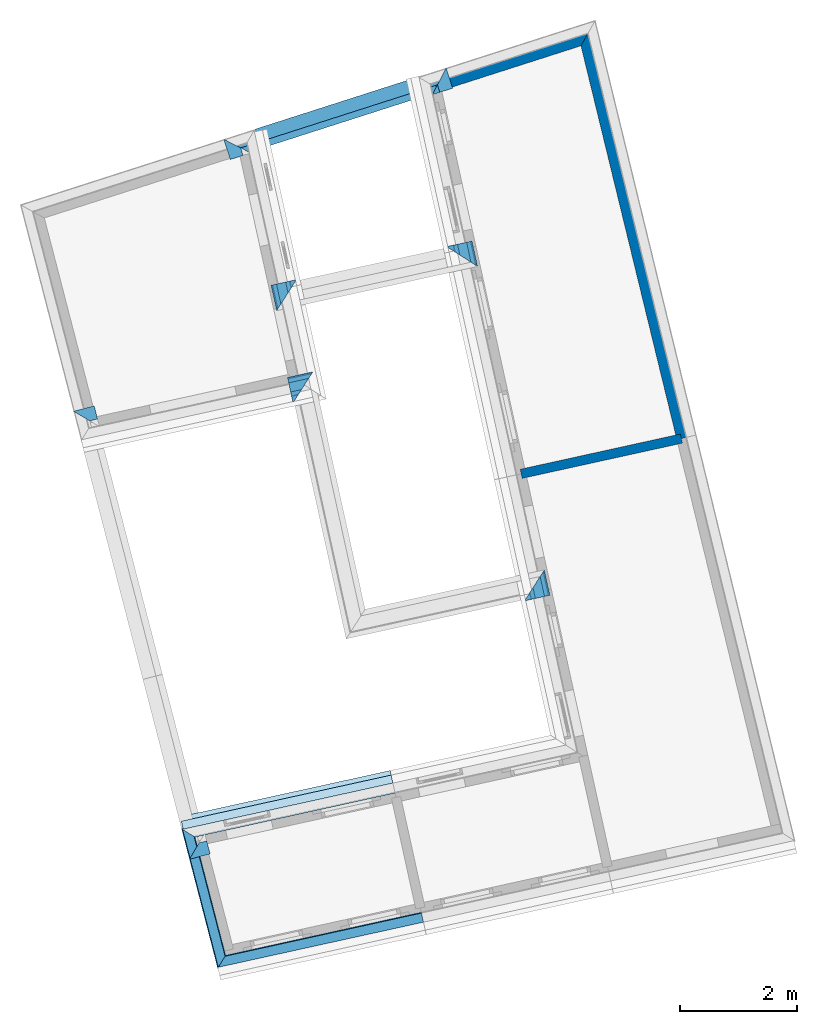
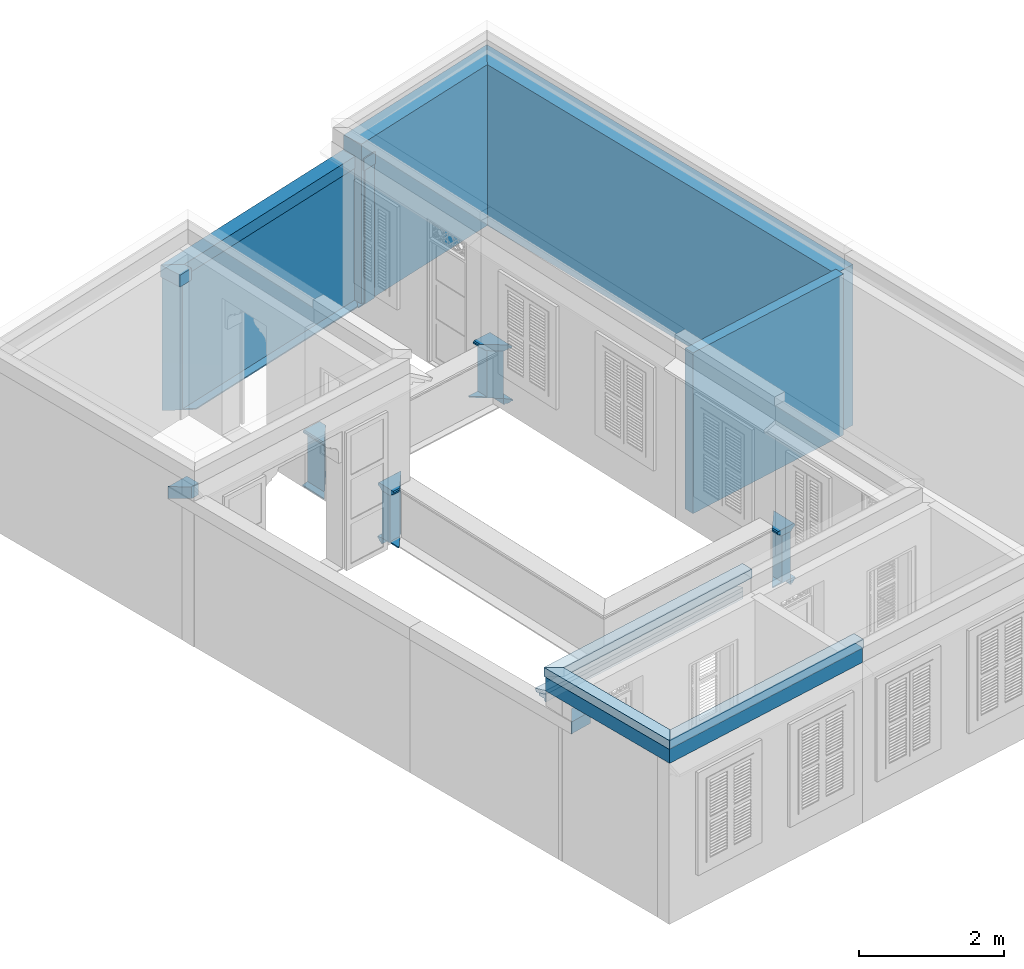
# One storey, part 14 of 17: 22 walls, 7 roofs.
"""IFC4 building model written with IfcOpenShell, lengths in metres."""

from ifc_helpers import new_model, si_unit, frame, origin_with_axes, place, context, subcontext, project, spatial, polyline, outline, extrude, clip, halfspace, material, layer, layer_set, layer_usage, material_profile, profile_set, profile_usage, type_object, element, save


model = new_model("IFC4")

# Units and contexts
model_context = context("Model", 3, world=origin_with_axes())
body_context = subcontext(model_context, "Body", "Model", "MODEL_VIEW")
ifc_project = project(units=[si_unit("PLANEANGLEUNIT", "RADIAN"), si_unit("MASSUNIT", "GRAM", prefix="KILO"), si_unit("FORCEUNIT", "NEWTON", prefix="KILO"), si_unit("LENGTHUNIT", "METRE"), si_unit("AREAUNIT", "SQUARE_METRE"), si_unit("VOLUMEUNIT", "CUBIC_METRE")], contexts=[model_context, model_context])

# Site, building, storey
site_placement = place(None, origin_with_axes())
site = spatial("IfcSite", under=ifc_project, at=site_placement, Name="Site plot-2", CompositionType="ELEMENT")
building_placement = place(None, origin_with_axes())
building = spatial("IfcBuilding", under=site, at=building_placement, Name="Building plot-2", CompositionType="ELEMENT")
storey_placement = place(None, frame((0.0, 0.0, 2.85), z_axis=(0.0, 0.0, 1.0), x_axis=(1.0, 0.0, 0.0)))
storey = spatial("IfcBuildingStorey", under=building, at=storey_placement, Name="plot-2 1", CompositionType="ELEMENT", Elevation=2.85)

# Walls
ifc_material_1 = material(Name="Masonry")
ifc_layer_1 = layer(ifc_material_1, 0.33, ventilated=False)
ifc_layer_set_1 = layer_set([ifc_layer_1], Name="party_0.08_0.25")
ifc_layer_usage_1 = layer_usage(ifc_layer_set_1, "AXIS2", "POSITIVE", -0.25)
wall_type_1 = type_object("IfcWallType", Name="party_0.08_0.25", PredefinedType="SOLIDWALL", material=ifc_layer_set_1)
wall_1_placement = place(storey_placement, frame((19.0788088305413, 10.0467628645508, 0.0), z_axis=(0.0, 0.0, 1.0), x_axis=(-0.236608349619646, 0.971605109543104, 0.0)))
element("IfcWall", 1, at=wall_1_placement, inside=storey, type_object=wall_type_1, material=ifc_layer_usage_1, Name="party", context=body_context, shape_type="SweptSolid", body=[
    extrude(outline(polyline([(-2.26027801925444e-16, 0.0800000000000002), (-2.20513796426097e-15, -0.25), (7.28721070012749, -0.250000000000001), (6.93273798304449, 0.0800000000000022), (-2.26027801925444e-16, 0.0800000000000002)])), origin_with_axes(), (0.0, 0.0, 1.0), 2.7),
])
wall_2_placement = place(storey_placement, frame((17.4181327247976, 16.8661392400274, 0.0), z_axis=(0.0, 0.0, 1.0), x_axis=(-0.952226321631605, -0.305393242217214, 0.0)))
element("IfcWall", 2, at=wall_2_placement, inside=storey, type_object=wall_type_1, material=ifc_layer_usage_1, Name="party", context=body_context, shape_type="SweptSolid", body=[
    extrude(outline(polyline([(0.08593277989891, 0.0799999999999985), (-0.268539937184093, -0.250000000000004), (2.66180211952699, -0.249999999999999), (2.661802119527, 0.0799999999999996), (0.08593277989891, 0.0799999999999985)])), origin_with_axes(), (0.0, 0.0, 1.0), 2.7),
])
ifc_material_2 = material(Name="Masonry")
ifc_layer_2 = layer(ifc_material_2, 0.16, ventilated=False)
ifc_layer_set_2 = layer_set([ifc_layer_2], Name="interior_0.08_0.08")
ifc_layer_usage_2 = layer_usage(ifc_layer_set_2, "AXIS2", "POSITIVE", -0.08)
wall_type_2 = type_object("IfcWallType", Name="interior_0.08_0.08", PredefinedType="SOLIDWALL", material=ifc_layer_set_2)
wall_3_placement = place(storey_placement, frame((19.0788088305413, 10.0467628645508, 0.0), z_axis=(0.0, 0.0, 1.0), x_axis=(-0.976656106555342, -0.214808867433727, 0.0)))
element("IfcWall", 3, at=wall_3_placement, inside=storey, type_object=wall_type_2, material=ifc_layer_usage_2, Name="interior", context=body_context, shape_type="SweptSolid", body=[
    extrude(outline(polyline([(4.11629879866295e-16, 0.0800000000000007), (-3.85899917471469e-16, -0.0800000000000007), (2.80713401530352, -0.0800000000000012), (2.80713401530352, 0.08), (4.11629879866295e-16, 0.0800000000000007)])), origin_with_axes(), (0.0, 0.0, 1.0), 2.7),
])
ifc_material_profile_1 = material_profile(None, outline(polyline([(0.25, 0.0), (0.25, 2.245), (0.05, 2.245), (0.05, 0.02), (-0.08, 0.02), (-0.08, 0.0), (0.25, 0.0)])))
ifc_profile_set_1 = profile_set([ifc_material_profile_1])
ifc_profile_usage_1 = profile_usage(ifc_profile_set_1)
wall_type_3 = type_object("IfcWallType", Name="parapet party_0", PredefinedType="PARAPET", material=ifc_profile_set_1)
wall_4_placement = place(storey_placement, frame((14.578101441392, 17.005469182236, 0.0), z_axis=(0.305393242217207, -0.952226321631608, 0.0), x_axis=(0.952226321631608, 0.305393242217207, 0.0)))
element("IfcWall", 4, at=wall_4_placement, inside=storey, type_object=wall_type_3, material=ifc_profile_usage_1, Name="parapet party_0", context=body_context, shape_type="Clipping", body=[
    clip(clip(extrude(outline(polyline([(0.25, 0.0), (0.25, 2.245), (0.05, 2.245), (0.05, 0.02), (-0.08, 0.02), (-0.08, 0.0), (0.25, 0.0)])), origin_with_axes(), (0.0, 0.0, 1.0), 2.1), halfspace(frame((0.0, 0.0, 1.1), z_axis=(6.04901474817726e-16, 0.0, -1.0), x_axis=(0.0, 1.0, 0.0)), True)), halfspace(frame((0.0, 0.0, 1.0), z_axis=(-0.707106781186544, 0.0, -0.707106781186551), x_axis=(0.0, 1.0, 0.0)), False)),
])
ifc_profile_usage_2 = profile_usage(ifc_profile_set_1)
wall_5_placement = place(storey_placement, frame((10.6325967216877, 14.6899162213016, 0.0), z_axis=(0.952226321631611, 0.305393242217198, 0.0), x_axis=(-0.305393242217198, 0.952226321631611, 0.0)))
element("IfcWall", 5, at=wall_5_placement, inside=storey, type_object=wall_type_3, material=ifc_profile_usage_2, Name="parapet party_0", context=body_context, shape_type="Clipping", body=[
    clip(clip(extrude(outline(polyline([(0.25, 0.0), (0.25, 2.245), (0.05, 2.245), (0.05, 0.02), (-0.08, 0.02), (-0.08, 0.0), (0.25, 0.0)])), origin_with_axes(), (0.0, 0.0, 1.0), 5.46416767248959), halfspace(frame((0.0, 0.0, 4.46416767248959), z_axis=(0.707106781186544, 0.0, -0.707106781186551), x_axis=(0.0, 1.0, 0.0)), True)), halfspace(frame((0.0, 0.0, 1.0), z_axis=(-0.707106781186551, 0.0, -0.707106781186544), x_axis=(0.0, 1.0, 0.0)), False)),
])
ifc_material_profile_2 = material_profile(None, outline(polyline([(0.265, 2.245), (0.265, 2.445), (0.035, 2.445), (0.035, 2.245), (0.265, 2.245)])))
ifc_profile_set_2 = profile_set([ifc_material_profile_2])
ifc_profile_usage_3 = profile_usage(ifc_profile_set_2)
wall_type_4 = type_object("IfcWallType", Name="parapet party_1", PredefinedType="PARAPET", material=ifc_profile_set_2)
wall_6_placement = place(storey_placement, frame((14.578101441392, 17.005469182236, 0.0), z_axis=(0.305393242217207, -0.952226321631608, 0.0), x_axis=(0.952226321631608, 0.305393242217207, 0.0)))
element("IfcWall", 6, at=wall_6_placement, inside=storey, type_object=wall_type_4, material=ifc_profile_usage_3, Name="parapet party_1", context=body_context, shape_type="Clipping", body=[
    clip(clip(extrude(outline(polyline([(0.265, 2.245), (0.265, 2.445), (0.035, 2.445), (0.035, 2.245), (0.265, 2.245)])), origin_with_axes(), (0.0, 0.0, 1.0), 2.1), halfspace(frame((0.0, 0.0, 1.1), z_axis=(6.04901474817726e-16, 0.0, -1.0), x_axis=(0.0, 1.0, 0.0)), True)), halfspace(frame((0.0, 0.0, 1.0), z_axis=(-0.707106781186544, 0.0, -0.707106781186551), x_axis=(0.0, 1.0, 0.0)), False)),
])
ifc_profile_usage_4 = profile_usage(ifc_profile_set_2)
wall_7_placement = place(storey_placement, frame((10.6325967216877, 14.6899162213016, 0.0), z_axis=(0.952226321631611, 0.305393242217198, 0.0), x_axis=(-0.305393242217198, 0.952226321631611, 0.0)))
element("IfcWall", 7, at=wall_7_placement, inside=storey, type_object=wall_type_4, material=ifc_profile_usage_4, Name="parapet party_1", context=body_context, shape_type="Clipping", body=[
    clip(clip(extrude(outline(polyline([(0.265, 2.245), (0.265, 2.445), (0.035, 2.445), (0.035, 2.245), (0.265, 2.245)])), origin_with_axes(), (0.0, 0.0, 1.0), 5.46416767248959), halfspace(frame((0.0, 0.0, 4.46416767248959), z_axis=(0.707106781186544, 0.0, -0.707106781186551), x_axis=(0.0, 1.0, 0.0)), True)), halfspace(frame((0.0, 0.0, 1.0), z_axis=(-0.707106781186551, 0.0, -0.707106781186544), x_axis=(0.0, 1.0, 0.0)), False)),
])
ifc_profile_usage_5 = profile_usage(ifc_profile_set_2)
wall_8_placement = place(storey_placement, frame((11.9207556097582, 13.947860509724, 0.0), z_axis=(-0.305393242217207, 0.952226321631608, 0.0), x_axis=(-0.952226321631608, -0.305393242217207, 0.0)))
element("IfcWall", 8, at=wall_8_placement, inside=storey, type_object=wall_type_4, material=ifc_profile_usage_5, Name="parapet party_1", context=body_context, shape_type="Clipping", body=[
    clip(clip(extrude(outline(polyline([(0.265, 2.245), (0.265, 2.445), (0.035, 2.445), (0.035, 2.245), (0.265, 2.245)])), origin_with_axes(), (0.0, 0.0, 1.0), 2.1), halfspace(frame((0.0, 0.0, 1.1), z_axis=(0.70710678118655, 0.0, -0.707106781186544), x_axis=(0.0, 1.0, 0.0)), True)), halfspace(frame((0.0, 0.0, 1.0), z_axis=(6.04901474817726e-16, 0.0, -1.0), x_axis=(0.0, 1.0, 0.0)), False)),
])
ifc_material_profile_3 = material_profile(None, outline(polyline([(0.265, 2.245), (0.265, 2.445), (0.035, 2.445), (0.035, 2.245), (0.265, 2.245)])))
ifc_profile_set_3 = profile_set([ifc_material_profile_3])
ifc_profile_usage_6 = profile_usage(ifc_profile_set_3)
wall_type_5 = type_object("IfcWallType", Name="parapet party_1", PredefinedType="PARAPET", material=ifc_profile_set_3)
wall_9_placement = place(storey_placement, frame((8.03640757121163, 10.0729819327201, 0.0), z_axis=(0.968110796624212, 0.250522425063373, 0.0), x_axis=(-0.250522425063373, 0.968110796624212, 0.0)))
element("IfcWall", 9, at=wall_9_placement, inside=storey, type_object=wall_type_5, material=ifc_profile_usage_6, Name="parapet party_1", context=body_context, shape_type="Clipping", body=[
    clip(clip(extrude(outline(polyline([(0.265, 2.245), (0.265, 2.445), (0.035, 2.445), (0.035, 2.245), (0.265, 2.245)])), origin_with_axes(), (0.0, 0.0, 1.0), 2.1), halfspace(frame((0.0, 0.0, 1.1), z_axis=(-5.0532154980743e-16, 0.0, -1.0), x_axis=(0.0, 1.0, 0.0)), True)), halfspace(frame((0.0, 0.0, 1.0), z_axis=(-0.707106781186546, 0.0, -0.707106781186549), x_axis=(0.0, 1.0, 0.0)), False)),
])
ifc_profile_usage_7 = profile_usage(ifc_profile_set_3)
wall_10_placement = place(storey_placement, frame((11.9192241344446, 3.45083369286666, 0.0), z_axis=(-0.968110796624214, -0.250522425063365, 0.0), x_axis=(0.250522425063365, -0.968110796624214, 0.0)))
element("IfcWall", 10, at=wall_10_placement, inside=storey, type_object=wall_type_5, material=ifc_profile_usage_7, Name="parapet party_1", context=body_context, shape_type="Clipping", body=[
    clip(clip(extrude(outline(polyline([(0.265, 2.245), (0.265, 2.445), (0.035, 2.445), (0.035, 2.245), (0.265, 2.245)])), origin_with_axes(), (0.0, 0.0, 1.0), 2.1), halfspace(frame((0.0, 0.0, 1.1), z_axis=(0.707106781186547, 0.0, -0.707106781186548), x_axis=(0.0, 1.0, 0.0)), True)), halfspace(frame((0.0, 0.0, 1.0), z_axis=(3.82856869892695e-16, 0.0, -1.0), x_axis=(0.0, 1.0, 0.0)), False)),
])
ifc_material_profile_4 = material_profile(None, outline(polyline([(0.25, 0.0), (0.25, 0.795), (0.09, 0.795), (0.09, 0.02), (-0.08, 0.02), (-0.08, 0.0), (0.25, 0.0)])))
ifc_profile_set_4 = profile_set([ifc_material_profile_4])
ifc_profile_usage_8 = profile_usage(ifc_profile_set_4)
wall_type_6 = type_object("IfcWallType", Name="parapet internal_0", PredefinedType="PARAPET", material=ifc_profile_set_4)
wall_11_placement = place(storey_placement, frame((12.6339023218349, 11.6686791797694, 0.0), z_axis=(-0.214808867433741, 0.976656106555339, 0.0), x_axis=(-0.976656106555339, -0.214808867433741, 0.0)))
element("IfcWall", 11, at=wall_11_placement, inside=storey, type_object=wall_type_6, material=ifc_profile_usage_8, Name="parapet internal_0", context=body_context, shape_type="Clipping", body=[
    clip(clip(extrude(outline(polyline([(0.25, 0.0), (0.25, 0.795), (0.09, 0.795), (0.09, 0.02), (-0.08, 0.02), (-0.08, 0.0), (0.25, 0.0)])), origin_with_axes(), (0.0, 0.0, 1.0), 2.1), halfspace(frame((0.0, 0.0, 1.1), z_axis=(-5.0532154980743e-16, 0.0, -1.0), x_axis=(0.0, 1.0, 0.0)), True)), halfspace(frame((0.0, 0.0, 1.0), z_axis=(-0.707106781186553, 0.0, -0.707106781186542), x_axis=(0.0, 1.0, 0.0)), False)),
])
ifc_profile_usage_9 = profile_usage(ifc_profile_set_4)
wall_12_placement = place(storey_placement, frame((14.9456869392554, 14.327334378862, 0.0), z_axis=(0.214808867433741, -0.976656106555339, 0.0), x_axis=(0.976656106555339, 0.214808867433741, 0.0)))
element("IfcWall", 12, at=wall_12_placement, inside=storey, type_object=wall_type_6, material=ifc_profile_usage_9, Name="parapet internal_0", context=body_context, shape_type="Clipping", body=[
    clip(clip(extrude(outline(polyline([(0.25, 0.0), (0.25, 0.795), (0.09, 0.795), (0.09, 0.02), (-0.08, 0.02), (-0.08, 0.0), (0.25, 0.0)])), origin_with_axes(), (0.0, 0.0, 1.0), 2.1), halfspace(frame((0.0, 0.0, 1.1), z_axis=(0.707106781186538, 0.0, -0.707106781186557), x_axis=(0.0, 1.0, 0.0)), True)), halfspace(frame((0.0, 0.0, 1.0), z_axis=(-7.27366154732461e-16, 0.0, -1.0), x_axis=(0.0, 1.0, 0.0)), False)),
])
ifc_material_profile_5 = material_profile(None, outline(polyline([(0.265, 0.795), (0.268, 0.807), (0.274, 0.816), (0.283, 0.822), (0.295, 0.825), (0.295, 0.84), (0.305, 0.84), (0.317, 0.842), (0.326, 0.849), (0.333, 0.858), (0.335, 0.87), (0.333, 0.882), (0.326, 0.891), (0.317, 0.898), (0.305, 0.9), (0.035, 0.9), (0.023, 0.898), (0.014, 0.891), (0.007, 0.882), (0.005, 0.87), (0.007, 0.858), (0.014, 0.849), (0.023, 0.842), (0.035, 0.84), (0.045, 0.84), (0.045, 0.825), (0.057, 0.822), (0.066, 0.816), (0.072, 0.807), (0.075, 0.795), (0.265, 0.795)])))
ifc_profile_set_5 = profile_set([ifc_material_profile_5])
ifc_profile_usage_10 = profile_usage(ifc_profile_set_5)
wall_type_7 = type_object("IfcWallType", Name="parapet internal_1", PredefinedType="PARAPET", material=ifc_profile_set_5)
wall_13_placement = place(storey_placement, frame((12.6339023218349, 11.6686791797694, 0.0), z_axis=(-0.214808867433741, 0.976656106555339, 0.0), x_axis=(-0.976656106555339, -0.214808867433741, 0.0)))
element("IfcWall", 13, at=wall_13_placement, inside=storey, type_object=wall_type_7, material=ifc_profile_usage_10, Name="parapet internal_1", context=body_context, shape_type="Clipping", body=[
    clip(clip(extrude(outline(polyline([(0.265, 0.795), (0.268, 0.807), (0.274, 0.816), (0.283, 0.822), (0.295, 0.825), (0.295, 0.84), (0.305, 0.84), (0.317, 0.842), (0.326, 0.849), (0.333, 0.858), (0.335, 0.87), (0.333, 0.882), (0.326, 0.891), (0.317, 0.898), (0.305, 0.9), (0.035, 0.9), (0.023, 0.898), (0.014, 0.891), (0.007, 0.882), (0.005, 0.87), (0.007, 0.858), (0.014, 0.849), (0.023, 0.842), (0.035, 0.84), (0.045, 0.84), (0.045, 0.825), (0.057, 0.822), (0.066, 0.816), (0.072, 0.807), (0.075, 0.795), (0.265, 0.795)])), origin_with_axes(), (0.0, 0.0, 1.0), 2.1), halfspace(frame((0.0, 0.0, 1.1), z_axis=(-5.0532154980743e-16, 0.0, -1.0), x_axis=(0.0, 1.0, 0.0)), True)), halfspace(frame((0.0, 0.0, 1.0), z_axis=(-0.707106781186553, 0.0, -0.707106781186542), x_axis=(0.0, 1.0, 0.0)), False)),
])
ifc_profile_usage_11 = profile_usage(ifc_profile_set_5)
wall_14_placement = place(storey_placement, frame((14.9456869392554, 14.327334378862, 0.0), z_axis=(0.214808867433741, -0.976656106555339, 0.0), x_axis=(0.976656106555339, 0.214808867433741, 0.0)))
element("IfcWall", 14, at=wall_14_placement, inside=storey, type_object=wall_type_7, material=ifc_profile_usage_11, Name="parapet internal_1", context=body_context, shape_type="Clipping", body=[
    clip(clip(extrude(outline(polyline([(0.265, 0.795), (0.268, 0.807), (0.274, 0.816), (0.283, 0.822), (0.295, 0.825), (0.295, 0.84), (0.305, 0.84), (0.317, 0.842), (0.326, 0.849), (0.333, 0.858), (0.335, 0.87), (0.333, 0.882), (0.326, 0.891), (0.317, 0.898), (0.305, 0.9), (0.035, 0.9), (0.023, 0.898), (0.014, 0.891), (0.007, 0.882), (0.005, 0.87), (0.007, 0.858), (0.014, 0.849), (0.023, 0.842), (0.035, 0.84), (0.045, 0.84), (0.045, 0.825), (0.057, 0.822), (0.066, 0.816), (0.072, 0.807), (0.075, 0.795), (0.265, 0.795)])), origin_with_axes(), (0.0, 0.0, 1.0), 2.1), halfspace(frame((0.0, 0.0, 1.1), z_axis=(0.707106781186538, 0.0, -0.707106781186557), x_axis=(0.0, 1.0, 0.0)), True)), halfspace(frame((0.0, 0.0, 1.0), z_axis=(-7.27366154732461e-16, 0.0, -1.0), x_axis=(0.0, 1.0, 0.0)), False)),
])
ifc_material_profile_6 = material_profile(None, outline(polyline([(0.25, -0.1), (0.265, -0.1), (0.265, -0.085), (0.278, -0.084), (0.289, -0.081), (0.301, -0.074), (0.309, -0.065), (0.315, -0.055), (0.324, -0.044), (0.334, -0.038), (0.345, -0.035), (0.345, -0.015), (0.25, 0.0), (0.25, -0.1)])))
ifc_profile_set_6 = profile_set([ifc_material_profile_6])
ifc_profile_usage_12 = profile_usage(ifc_profile_set_6)
wall_type_8 = type_object("IfcWallType", Name="parapet internal_2", PredefinedType="PARAPET", material=ifc_profile_set_6)
wall_15_placement = place(storey_placement, frame((12.6339023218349, 11.6686791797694, 0.0), z_axis=(-0.214808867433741, 0.976656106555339, 0.0), x_axis=(-0.976656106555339, -0.214808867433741, 0.0)))
element("IfcWall", 15, at=wall_15_placement, inside=storey, type_object=wall_type_8, material=ifc_profile_usage_12, Name="parapet internal_2", context=body_context, shape_type="Clipping", body=[
    clip(clip(extrude(outline(polyline([(0.25, -0.1), (0.265, -0.1), (0.265, -0.085), (0.278, -0.084), (0.289, -0.081), (0.301, -0.074), (0.309, -0.065), (0.315, -0.055), (0.324, -0.044), (0.334, -0.038), (0.345, -0.035), (0.345, -0.015), (0.25, 0.0), (0.25, -0.1)])), origin_with_axes(), (0.0, 0.0, 1.0), 2.1), halfspace(frame((0.0, 0.0, 1.1), z_axis=(-5.0532154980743e-16, 0.0, -1.0), x_axis=(0.0, 1.0, 0.0)), True)), halfspace(frame((0.0, 0.0, 1.0), z_axis=(-0.707106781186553, 0.0, -0.707106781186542), x_axis=(0.0, 1.0, 0.0)), False)),
])
ifc_profile_usage_13 = profile_usage(ifc_profile_set_6)
wall_16_placement = place(storey_placement, frame((14.9456869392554, 14.327334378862, 0.0), z_axis=(0.214808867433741, -0.976656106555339, 0.0), x_axis=(0.976656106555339, 0.214808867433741, 0.0)))
element("IfcWall", 16, at=wall_16_placement, inside=storey, type_object=wall_type_8, material=ifc_profile_usage_13, Name="parapet internal_2", context=body_context, shape_type="Clipping", body=[
    clip(clip(extrude(outline(polyline([(0.25, -0.1), (0.265, -0.1), (0.265, -0.085), (0.278, -0.084), (0.289, -0.081), (0.301, -0.074), (0.309, -0.065), (0.315, -0.055), (0.324, -0.044), (0.334, -0.038), (0.345, -0.035), (0.345, -0.015), (0.25, 0.0), (0.25, -0.1)])), origin_with_axes(), (0.0, 0.0, 1.0), 2.1), halfspace(frame((0.0, 0.0, 1.1), z_axis=(0.707106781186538, 0.0, -0.707106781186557), x_axis=(0.0, 1.0, 0.0)), True)), halfspace(frame((0.0, 0.0, 1.0), z_axis=(-7.27366154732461e-16, 0.0, -1.0), x_axis=(0.0, 1.0, 0.0)), False)),
])
ifc_material_profile_7 = material_profile(None, outline(polyline([(0.25, 0.0), (0.25, 0.795), (0.09, 0.795), (0.09, 0.02), (-0.08, 0.02), (-0.08, 0.0), (0.25, 0.0)])))
ifc_profile_set_7 = profile_set([ifc_material_profile_7])
ifc_profile_usage_14 = profile_usage(ifc_profile_set_7)
wall_type_9 = type_object("IfcWallType", Name="parapet internal_0", PredefinedType="PARAPET", material=ifc_profile_set_7)
wall_17_placement = place(storey_placement, frame((16.256540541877, 8.36737010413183, 0.0), z_axis=(0.214808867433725, -0.976656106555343, 0.0), x_axis=(0.976656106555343, 0.214808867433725, 0.0)))
element("IfcWall", 17, at=wall_17_placement, inside=storey, type_object=wall_type_9, material=ifc_profile_usage_14, Name="parapet internal_0", context=body_context, shape_type="Clipping", body=[
    clip(clip(extrude(outline(polyline([(0.25, 0.0), (0.25, 0.795), (0.09, 0.795), (0.09, 0.02), (-0.08, 0.02), (-0.08, 0.0), (0.25, 0.0)])), origin_with_axes(), (0.0, 0.0, 1.0), 2.1), halfspace(frame((0.0, 0.0, 1.1), z_axis=(-6.12323399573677e-17, 0.0, -1.0), x_axis=(0.0, 1.0, 0.0)), True)), halfspace(frame((0.0, 0.0, 1.0), z_axis=(-0.707106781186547, 0.0, -0.707106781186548), x_axis=(0.0, 1.0, 0.0)), False)),
])
ifc_profile_usage_15 = profile_usage(ifc_profile_set_7)
wall_18_placement = place(storey_placement, frame((11.4381479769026, 10.5413550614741, 0.0), z_axis=(0.976656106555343, 0.214808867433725, 0.0), x_axis=(-0.214808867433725, 0.976656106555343, 0.0)))
element("IfcWall", 18, at=wall_18_placement, inside=storey, type_object=wall_type_9, material=ifc_profile_usage_15, Name="parapet internal_0", context=body_context, shape_type="Clipping", body=[
    clip(clip(extrude(outline(polyline([(0.25, 0.0), (0.25, 0.795), (0.09, 0.795), (0.09, 0.02), (-0.08, 0.02), (-0.08, 0.0), (0.25, 0.0)])), origin_with_axes(), (0.0, 0.0, 1.0), 2.1), halfspace(frame((0.0, 0.0, 1.1), z_axis=(0.707106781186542, 0.0, -0.707106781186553), x_axis=(0.0, 1.0, 0.0)), True)), halfspace(frame((0.0, 0.0, 1.0), z_axis=(-5.0532154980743e-16, 0.0, -1.0), x_axis=(0.0, 1.0, 0.0)), False)),
])
ifc_material_profile_8 = material_profile(None, outline(polyline([(0.265, 0.795), (0.268, 0.807), (0.274, 0.816), (0.283, 0.822), (0.295, 0.825), (0.295, 0.84), (0.305, 0.84), (0.317, 0.842), (0.326, 0.849), (0.333, 0.858), (0.335, 0.87), (0.333, 0.882), (0.326, 0.891), (0.317, 0.898), (0.305, 0.9), (0.035, 0.9), (0.023, 0.898), (0.014, 0.891), (0.007, 0.882), (0.005, 0.87), (0.007, 0.858), (0.014, 0.849), (0.023, 0.842), (0.035, 0.84), (0.045, 0.84), (0.045, 0.825), (0.057, 0.822), (0.066, 0.816), (0.072, 0.807), (0.075, 0.795), (0.265, 0.795)])))
ifc_profile_set_8 = profile_set([ifc_material_profile_8])
ifc_profile_usage_16 = profile_usage(ifc_profile_set_8)
wall_type_10 = type_object("IfcWallType", Name="parapet internal_1", PredefinedType="PARAPET", material=ifc_profile_set_8)
wall_19_placement = place(storey_placement, frame((16.256540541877, 8.36737010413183, 0.0), z_axis=(0.214808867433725, -0.976656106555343, 0.0), x_axis=(0.976656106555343, 0.214808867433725, 0.0)))
element("IfcWall", 19, at=wall_19_placement, inside=storey, type_object=wall_type_10, material=ifc_profile_usage_16, Name="parapet internal_1", context=body_context, shape_type="Clipping", body=[
    clip(clip(extrude(outline(polyline([(0.265, 0.795), (0.268, 0.807), (0.274, 0.816), (0.283, 0.822), (0.295, 0.825), (0.295, 0.84), (0.305, 0.84), (0.317, 0.842), (0.326, 0.849), (0.333, 0.858), (0.335, 0.87), (0.333, 0.882), (0.326, 0.891), (0.317, 0.898), (0.305, 0.9), (0.035, 0.9), (0.023, 0.898), (0.014, 0.891), (0.007, 0.882), (0.005, 0.87), (0.007, 0.858), (0.014, 0.849), (0.023, 0.842), (0.035, 0.84), (0.045, 0.84), (0.045, 0.825), (0.057, 0.822), (0.066, 0.816), (0.072, 0.807), (0.075, 0.795), (0.265, 0.795)])), origin_with_axes(), (0.0, 0.0, 1.0), 2.1), halfspace(frame((0.0, 0.0, 1.1), z_axis=(-6.12323399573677e-17, 0.0, -1.0), x_axis=(0.0, 1.0, 0.0)), True)), halfspace(frame((0.0, 0.0, 1.0), z_axis=(-0.707106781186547, 0.0, -0.707106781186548), x_axis=(0.0, 1.0, 0.0)), False)),
])
ifc_profile_usage_17 = profile_usage(ifc_profile_set_8)
wall_20_placement = place(storey_placement, frame((11.4381479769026, 10.5413550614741, 0.0), z_axis=(0.976656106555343, 0.214808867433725, 0.0), x_axis=(-0.214808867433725, 0.976656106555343, 0.0)))
element("IfcWall", 20, at=wall_20_placement, inside=storey, type_object=wall_type_10, material=ifc_profile_usage_17, Name="parapet internal_1", context=body_context, shape_type="Clipping", body=[
    clip(clip(extrude(outline(polyline([(0.265, 0.795), (0.268, 0.807), (0.274, 0.816), (0.283, 0.822), (0.295, 0.825), (0.295, 0.84), (0.305, 0.84), (0.317, 0.842), (0.326, 0.849), (0.333, 0.858), (0.335, 0.87), (0.333, 0.882), (0.326, 0.891), (0.317, 0.898), (0.305, 0.9), (0.035, 0.9), (0.023, 0.898), (0.014, 0.891), (0.007, 0.882), (0.005, 0.87), (0.007, 0.858), (0.014, 0.849), (0.023, 0.842), (0.035, 0.84), (0.045, 0.84), (0.045, 0.825), (0.057, 0.822), (0.066, 0.816), (0.072, 0.807), (0.075, 0.795), (0.265, 0.795)])), origin_with_axes(), (0.0, 0.0, 1.0), 2.1), halfspace(frame((0.0, 0.0, 1.1), z_axis=(0.707106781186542, 0.0, -0.707106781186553), x_axis=(0.0, 1.0, 0.0)), True)), halfspace(frame((0.0, 0.0, 1.0), z_axis=(-5.0532154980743e-16, 0.0, -1.0), x_axis=(0.0, 1.0, 0.0)), False)),
])
ifc_material_profile_9 = material_profile(None, outline(polyline([(0.25, -0.1), (0.265, -0.1), (0.265, -0.085), (0.278, -0.084), (0.289, -0.081), (0.301, -0.074), (0.309, -0.065), (0.315, -0.055), (0.324, -0.044), (0.334, -0.038), (0.345, -0.035), (0.345, -0.015), (0.25, 0.0), (0.25, -0.1)])))
ifc_profile_set_9 = profile_set([ifc_material_profile_9])
ifc_profile_usage_18 = profile_usage(ifc_profile_set_9)
wall_type_11 = type_object("IfcWallType", Name="parapet internal_2", PredefinedType="PARAPET", material=ifc_profile_set_9)
wall_21_placement = place(storey_placement, frame((16.256540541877, 8.36737010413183, 0.0), z_axis=(0.214808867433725, -0.976656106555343, 0.0), x_axis=(0.976656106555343, 0.214808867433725, 0.0)))
element("IfcWall", 21, at=wall_21_placement, inside=storey, type_object=wall_type_11, material=ifc_profile_usage_18, Name="parapet internal_2", context=body_context, shape_type="Clipping", body=[
    clip(clip(extrude(outline(polyline([(0.25, -0.1), (0.265, -0.1), (0.265, -0.085), (0.278, -0.084), (0.289, -0.081), (0.301, -0.074), (0.309, -0.065), (0.315, -0.055), (0.324, -0.044), (0.334, -0.038), (0.345, -0.035), (0.345, -0.015), (0.25, 0.0), (0.25, -0.1)])), origin_with_axes(), (0.0, 0.0, 1.0), 2.1), halfspace(frame((0.0, 0.0, 1.1), z_axis=(-6.12323399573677e-17, 0.0, -1.0), x_axis=(0.0, 1.0, 0.0)), True)), halfspace(frame((0.0, 0.0, 1.0), z_axis=(-0.707106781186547, 0.0, -0.707106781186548), x_axis=(0.0, 1.0, 0.0)), False)),
])
ifc_profile_usage_19 = profile_usage(ifc_profile_set_9)
wall_22_placement = place(storey_placement, frame((11.4381479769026, 10.5413550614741, 0.0), z_axis=(0.976656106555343, 0.214808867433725, 0.0), x_axis=(-0.214808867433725, 0.976656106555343, 0.0)))
element("IfcWall", 22, at=wall_22_placement, inside=storey, type_object=wall_type_11, material=ifc_profile_usage_19, Name="parapet internal_2", context=body_context, shape_type="Clipping", body=[
    clip(clip(extrude(outline(polyline([(0.25, -0.1), (0.265, -0.1), (0.265, -0.085), (0.278, -0.084), (0.289, -0.081), (0.301, -0.074), (0.309, -0.065), (0.315, -0.055), (0.324, -0.044), (0.334, -0.038), (0.345, -0.035), (0.345, -0.015), (0.25, 0.0), (0.25, -0.1)])), origin_with_axes(), (0.0, 0.0, 1.0), 2.1), halfspace(frame((0.0, 0.0, 1.1), z_axis=(0.707106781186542, 0.0, -0.707106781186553), x_axis=(0.0, 1.0, 0.0)), True)), halfspace(frame((0.0, 0.0, 1.0), z_axis=(-5.0532154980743e-16, 0.0, -1.0), x_axis=(0.0, 1.0, 0.0)), False)),
])

# Roofs
ifc_material_profile_10 = material_profile(None, outline(polyline([(0.25, 0.0), (0.25, 0.245), (0.09, 0.245), (0.09, 0.0), (0.25, 0.0)])))
ifc_profile_set_10 = profile_set([ifc_material_profile_10])
ifc_profile_usage_20 = profile_usage(ifc_profile_set_10)
roof_type_1 = type_object("IfcRoofType", Name="roofline_0", PredefinedType="FREEFORM", material=ifc_profile_set_10)
roof_1_placement = place(storey_placement, frame((11.5900396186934, 0.332099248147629, 2.7), z_axis=(-0.250522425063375, 0.968110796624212, 0.0), x_axis=(-0.968110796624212, -0.250522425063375, 0.0)))
element("IfcRoof", 23, at=roof_1_placement, inside=storey, type_object=roof_type_1, material=ifc_profile_usage_20, Name="roofline_0", context=body_context, shape_type="Clipping", body=[
    clip(clip(extrude(outline(polyline([(0.25, 0.0), (0.25, 0.245), (0.09, 0.245), (0.09, 0.0), (0.25, 0.0)])), origin_with_axes(), (0.0, 0.0, 1.0), 3.936812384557), halfspace(frame((0.0, 0.0, 2.936812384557), z_axis=(0.719970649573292, 0.0, -0.694004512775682), x_axis=(0.0, 1.0, 0.0)), True)), halfspace(frame((0.0, 0.0, 1.0), z_axis=(-0.694004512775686, 0.0, -0.719970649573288), x_axis=(0.0, 1.0, 0.0)), False)),
])
ifc_profile_usage_21 = profile_usage(ifc_profile_set_10)
roof_2_placement = place(storey_placement, frame((15.5899536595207, 2.23506463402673, 2.7), z_axis=(-0.976656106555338, -0.214808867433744, 0.0), x_axis=(0.214808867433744, -0.976656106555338, 0.0)))
element("IfcRoof", 24, at=roof_2_placement, inside=storey, type_object=roof_type_1, material=ifc_profile_usage_21, Name="roofline_0", context=body_context, shape_type="Clipping", body=[
    clip(clip(extrude(outline(polyline([(0.25, 0.0), (0.25, 0.245), (0.09, 0.245), (0.09, 0.0), (0.25, 0.0)])), origin_with_axes(), (0.0, 0.0, 1.0), 5.35202978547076), halfspace(frame((0.0, 0.0, 4.35202978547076), z_axis=(0.694004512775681, 0.0, -0.719970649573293), x_axis=(0.0, 1.0, 0.0)), True)), halfspace(frame((0.0, 0.0, 1.0), z_axis=(-2.83276944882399e-16, 0.0, -1.0), x_axis=(0.0, 1.0, 0.0)), False)),
])
ifc_material_profile_11 = material_profile(None, outline(polyline([(0.265, 0.245), (0.265, 0.395), (0.075, 0.395), (0.075, 0.245), (0.265, 0.245)])))
ifc_profile_set_11 = profile_set([ifc_material_profile_11])
ifc_profile_usage_22 = profile_usage(ifc_profile_set_11)
roof_type_2 = type_object("IfcRoofType", Name="roofline_1", PredefinedType="FREEFORM", material=ifc_profile_set_11)
roof_3_placement = place(storey_placement, frame((9.87764615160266, 2.96045015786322, 2.7), z_axis=(0.976656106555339, 0.214808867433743, 0.0), x_axis=(-0.214808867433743, 0.976656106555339, 0.0)))
element("IfcRoof", 25, at=roof_3_placement, inside=storey, type_object=roof_type_2, material=ifc_profile_usage_22, Name="roofline_1", context=body_context, shape_type="Clipping", body=[
    clip(clip(extrude(outline(polyline([(0.265, 0.245), (0.265, 0.395), (0.075, 0.395), (0.075, 0.245), (0.265, 0.245)])), origin_with_axes(), (0.0, 0.0, 1.0), 5.42314076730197), halfspace(frame((0.0, 0.0, 4.42314076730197), z_axis=(-6.12323399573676e-17, 0.0, -1.0), x_axis=(0.0, 1.0, 0.0)), True)), halfspace(frame((0.0, 0.0, 1.0), z_axis=(-0.71997064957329, 0.0, -0.694004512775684), x_axis=(0.0, 1.0, 0.0)), False)),
])
ifc_profile_usage_23 = profile_usage(ifc_profile_set_11)
roof_4_placement = place(storey_placement, frame((11.5900396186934, 0.332099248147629, 2.7), z_axis=(-0.250522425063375, 0.968110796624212, 0.0), x_axis=(-0.968110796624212, -0.250522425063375, 0.0)))
element("IfcRoof", 26, at=roof_4_placement, inside=storey, type_object=roof_type_2, material=ifc_profile_usage_23, Name="roofline_1", context=body_context, shape_type="Clipping", body=[
    clip(clip(extrude(outline(polyline([(0.265, 0.245), (0.265, 0.395), (0.075, 0.395), (0.075, 0.245), (0.265, 0.245)])), origin_with_axes(), (0.0, 0.0, 1.0), 3.936812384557), halfspace(frame((0.0, 0.0, 2.936812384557), z_axis=(0.719970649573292, 0.0, -0.694004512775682), x_axis=(0.0, 1.0, 0.0)), True)), halfspace(frame((0.0, 0.0, 1.0), z_axis=(-0.694004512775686, 0.0, -0.719970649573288), x_axis=(0.0, 1.0, 0.0)), False)),
])
ifc_profile_usage_24 = profile_usage(ifc_profile_set_11)
roof_5_placement = place(storey_placement, frame((15.5899536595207, 2.23506463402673, 2.7), z_axis=(-0.976656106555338, -0.214808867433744, 0.0), x_axis=(0.214808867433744, -0.976656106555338, 0.0)))
element("IfcRoof", 27, at=roof_5_placement, inside=storey, type_object=roof_type_2, material=ifc_profile_usage_24, Name="roofline_1", context=body_context, shape_type="Clipping", body=[
    clip(clip(extrude(outline(polyline([(0.265, 0.245), (0.265, 0.395), (0.075, 0.395), (0.075, 0.245), (0.265, 0.245)])), origin_with_axes(), (0.0, 0.0, 1.0), 5.35202978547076), halfspace(frame((0.0, 0.0, 4.35202978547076), z_axis=(0.694004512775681, 0.0, -0.719970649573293), x_axis=(0.0, 1.0, 0.0)), True)), halfspace(frame((0.0, 0.0, 1.0), z_axis=(-2.83276944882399e-16, 0.0, -1.0), x_axis=(0.0, 1.0, 0.0)), False)),
])
ifc_material_profile_12 = material_profile(None, outline(polyline([(0.25, -0.19), (0.275, -0.19), (0.275, -0.15), (0.39, -0.15), (0.39, -0.107509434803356), (0.25, -0.0629639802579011), (0.25, -0.19)])))
ifc_profile_set_12 = profile_set([ifc_material_profile_12])
ifc_profile_usage_25 = profile_usage(ifc_profile_set_12)
roof_type_3 = type_object("IfcRoofType", Name="eaves_0", PredefinedType="FREEFORM", material=ifc_profile_set_12)
roof_6_placement = place(storey_placement, frame((9.63348212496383, 2.90674794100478, 2.7), z_axis=(0.976656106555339, 0.214808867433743, 0.0), x_axis=(-0.214808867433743, 0.976656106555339, 0.0)))
element("IfcRoof", 28, at=roof_6_placement, inside=storey, type_object=roof_type_3, material=ifc_profile_usage_25, Name="eaves_0", context=body_context, shape_type="Clipping", body=[
    clip(clip(extrude(outline(polyline([(0.25, -0.19), (0.275, -0.19), (0.275, -0.15), (0.39, -0.15), (0.39, -0.107509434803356), (0.25, -0.0629639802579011), (0.25, -0.19)])), origin_with_axes(), (0.0, 0.0, 1.0), 5.67314076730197), halfspace(frame((0.0, 0.0, 4.67314076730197), z_axis=(-6.12323399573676e-17, 0.0, -1.0), x_axis=(0.0, 1.0, 0.0)), True)), halfspace(frame((0.0, 0.0, 1.0), z_axis=(-6.12323399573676e-17, 0.0, -1.0), x_axis=(0.0, 1.0, 0.0)), False)),
])
ifc_material_profile_13 = material_profile(None, outline(polyline([(0.25, -0.0629639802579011), (0.451807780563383, -0.127175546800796), (0.47, -0.07), (0.25, 0.0), (0.25, -0.0629639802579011)])))
ifc_profile_set_13 = profile_set([ifc_material_profile_13])
ifc_profile_usage_26 = profile_usage(ifc_profile_set_13)
roof_type_4 = type_object("IfcRoofType", Name="eaves_1", PredefinedType="FREEFORM", material=ifc_profile_set_13)
roof_7_placement = place(storey_placement, frame((9.63348212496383, 2.90674794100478, 2.7), z_axis=(0.976656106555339, 0.214808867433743, 0.0), x_axis=(-0.214808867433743, 0.976656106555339, 0.0)))
element("IfcRoof", 29, at=roof_7_placement, inside=storey, type_object=roof_type_4, material=ifc_profile_usage_26, Name="eaves_1", context=body_context, shape_type="Clipping", body=[
    clip(clip(extrude(outline(polyline([(0.25, -0.0629639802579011), (0.451807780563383, -0.127175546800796), (0.47, -0.07), (0.25, 0.0), (0.25, -0.0629639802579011)])), origin_with_axes(), (0.0, 0.0, 1.0), 5.67314076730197), halfspace(frame((0.0, 0.0, 4.67314076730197), z_axis=(-6.12323399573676e-17, 0.0, -1.0), x_axis=(0.0, 1.0, 0.0)), True)), halfspace(frame((0.0, 0.0, 1.0), z_axis=(-6.12323399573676e-17, 0.0, -1.0), x_axis=(0.0, 1.0, 0.0)), False)),
])

save(model, "model.ifc")
